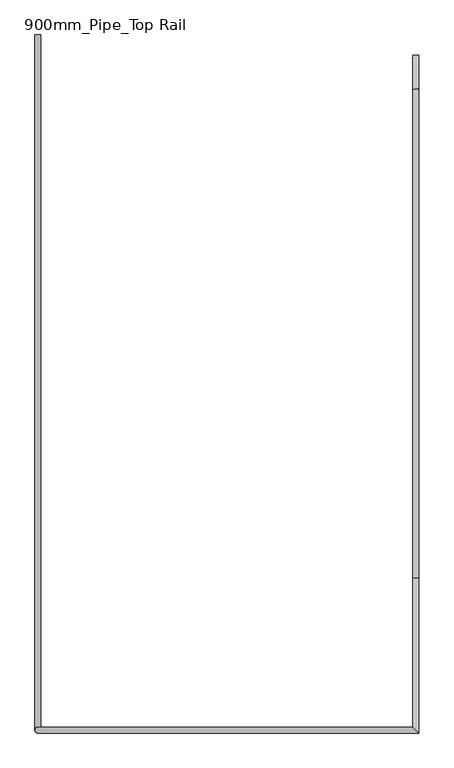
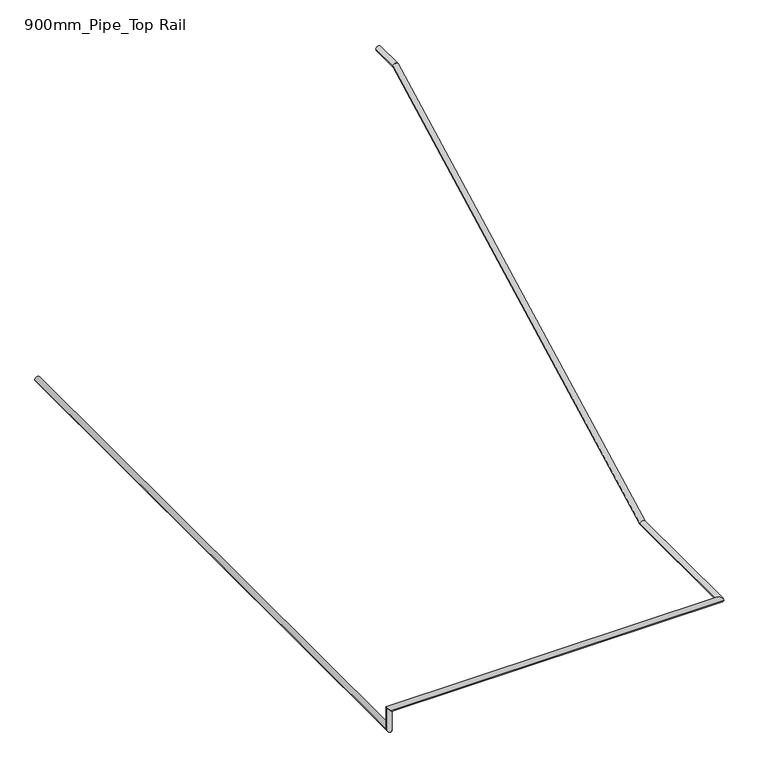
"""IFC4 building model written with IfcOpenShell, lengths in millimetres: railing geometry, 900mm_Pipe_Top Rail."""

from ifc_helpers import new_model, si_unit, frame, origin, place, context, project, spatial, circle_curve, ellipse_curve, source, transform, mapped, element, save
from ifc_brep_helpers import plane_surface, cylinder_surface, advanced_brep


def railing_900mm_pipe_top_rail_e3d62f47(model_context):
    return source(origin(), model_context, "Body", "AdvancedBrep", [
        advanced_brep(
        [(-13385.321645, 12332.0900975, 948.1818182), (-13345.321645, 12332.0900975, 948.1818182), (-13385.321645, 7639.8960687, 948.1818182), (-13345.321645, 7639.8960687, 948.1818182)],
        [
            (0, 1, circle_curve(frame((-13365.321645, 12332.0900975, 948.1818182), z_axis=(0.0, 1.0, 0.0), x_axis=(1.0, 0.0, 0.0)), 20.0)),
            (1, 0, circle_curve(frame((-13365.321645, 12332.0900975, 948.1818182), z_axis=(0.0, 1.0, 0.0), x_axis=(1.0, 0.0, 0.0)), 20.0)),
            (2, 3, ellipse_curve(frame((-13365.321645, 7639.8960687, 948.1818182), z_axis=(0.0, -0.70710678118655, 0.7071067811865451), x_axis=(0.0, 0.7071067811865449, 0.70710678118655)), 28.2842712, 20.0)),
            (3, 2, ellipse_curve(frame((-13365.321645, 7639.8960687, 948.1818182), z_axis=(0.0, -0.70710678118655, 0.7071067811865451), x_axis=(0.0, 0.7071067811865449, 0.70710678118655)), 28.2842712, 20.0)),
            (0, 2),
            (3, 1),
        ],
        [
            plane_surface(frame((-13365.321645, 12332.0900975, 968.1818182), z_axis=(0.0, 1.0, 0.0), x_axis=(0.0, 0.0, -1.0))),
            plane_surface(frame((-13365.321645, 7659.8960687, 968.1818182), z_axis=(0.0, -0.70710678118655, 0.7071067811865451), x_axis=(1.0, 0.0, 0.0))),
            cylinder_surface(frame((-13365.321645, 12332.0900975, 948.1818182), z_axis=(0.0, 1.0, 0.0), x_axis=(1.0, 0.0, 0.0)), 20.0),
        ],
        [
            (0, [[1, 2]]),
            (1, [[3, 4]]),
            (2, [[-1, 5, -4, 6]]),
            (2, [[-2, -6, -3, -5]]),
        ],
    ),
        advanced_brep(
        [(-13385.321645, 7639.8960687, 948.1818182), (-13345.321645, 7639.8960687, 948.1818182), (-13385.321645, 7639.8960687, 1125.0), (-13345.321645, 7639.8960687, 1085.0)],
        [
            (0, 1, ellipse_curve(frame((-13365.321645, 7639.8960687, 948.1818182), z_axis=(0.0, 0.70710678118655, -0.7071067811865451), x_axis=(0.0, -0.7071067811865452, -0.7071067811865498)), 28.2842712, 20.0)),
            (1, 0, ellipse_curve(frame((-13365.321645, 7639.8960687, 948.1818182), z_axis=(0.0, 0.70710678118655, -0.7071067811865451), x_axis=(0.0, -0.7071067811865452, -0.7071067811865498)), 28.2842712, 20.0)),
            (2, 3, ellipse_curve(frame((-13365.321645, 7639.8960687, 1105.0), z_axis=(0.7071067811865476, 0.0, 0.7071067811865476), x_axis=(0.7071067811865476, 0.0, -0.7071067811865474)), 28.2842712, 20.0)),
            (3, 2, ellipse_curve(frame((-13365.321645, 7639.8960687, 1105.0), z_axis=(0.7071067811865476, 0.0, 0.7071067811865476), x_axis=(0.7071067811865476, 0.0, -0.7071067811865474)), 28.2842712, 20.0)),
            (0, 2),
            (3, 1),
        ],
        [
            plane_surface(frame((-13365.321645, 7639.8960687, 948.1818182), z_axis=(0.0, 0.70710678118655, -0.7071067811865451), x_axis=(1.0, 0.0, 0.0))),
            plane_surface(frame((-13365.321645, 7639.8960687, 1105.0), z_axis=(0.7071067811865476, 0.0, 0.7071067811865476), x_axis=(0.7071067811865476, 0.0, -0.7071067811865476))),
            cylinder_surface(frame((-13365.321645, 7639.8960687, 948.1818182), z_axis=(0.0, 0.0, -1.0), x_axis=(1.0, 0.0, 0.0)), 20.0),
        ],
        [
            (0, [[1, 2]]),
            (1, [[3, 4]]),
            (2, [[-1, 5, -4, 6]]),
            (2, [[-2, -6, -3, -5]]),
        ],
    ),
        advanced_brep(
        [(-13365.321645, 7619.8960687, 1105.0), (-13365.321645, 7659.8960687, 1105.0), (-10795.2146087, 7619.8960687, 1105.0), (-10835.2146087, 7659.8960687, 1105.0), (-10795.2146087, 8669.7946817, 1105.0), (-10835.2146087, 8669.7946817, 1105.0), (-10795.2146087, 11969.7946817, 2830.0), (-10835.2146087, 11969.7946817, 2830.0), (-10795.2146087, 12194.8095561, 2830.0), (-10835.2146087, 12194.8095561, 2830.0)],
        [
            (0, 1, ellipse_curve(frame((-13365.321645, 7639.8960687, 1105.0), z_axis=(-0.7071067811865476, 0.0, -0.7071067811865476), x_axis=(-0.7071067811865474, 0.0, 0.7071067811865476)), 28.2842712, 20.0)),
            (1, 0, ellipse_curve(frame((-13365.321645, 7639.8960687, 1105.0), z_axis=(-0.7071067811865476, 0.0, -0.7071067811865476), x_axis=(-0.7071067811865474, 0.0, 0.7071067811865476)), 28.2842712, 20.0)),
            (0, 2),
            (2, 3, ellipse_curve(frame((-10815.2146087, 7639.8960687, 1105.0), z_axis=(-0.7071067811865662, -0.7071067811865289, 0.0), x_axis=(-0.7071067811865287, 0.7071067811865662, 0.0)), 28.2842712, 20.0)),
            (3, 1),
            (3, 2, ellipse_curve(frame((-10815.2146087, 7639.8960687, 1105.0), z_axis=(-0.7071067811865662, -0.7071067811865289, 0.0), x_axis=(-0.7071067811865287, 0.7071067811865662, 0.0)), 28.2842712, 20.0)),
            (2, 4),
            (4, 5, ellipse_curve(frame((-10815.2146087, 8669.7946817, 1105.0), z_axis=(0.0, -0.9711399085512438, -0.23851054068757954), x_axis=(0.0, -0.23851054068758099, 0.9711399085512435)), 20.594355, 20.0)),
            (5, 3),
            (5, 4, ellipse_curve(frame((-10815.2146087, 8669.7946817, 1105.0), z_axis=(0.0, -0.9711399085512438, -0.23851054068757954), x_axis=(0.0, -0.23851054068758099, 0.9711399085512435)), 20.594355, 20.0)),
            (4, 6),
            (6, 7, ellipse_curve(frame((-10815.2146087, 11969.7946817, 2830.0), z_axis=(0.0, -0.9711399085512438, -0.23851054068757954), x_axis=(0.0, 0.23851054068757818, -0.9711399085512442)), 20.594355, 20.0)),
            (7, 5),
            (7, 6, ellipse_curve(frame((-10815.2146087, 11969.7946817, 2830.0), z_axis=(0.0, -0.9711399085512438, -0.23851054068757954), x_axis=(0.0, 0.23851054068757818, -0.9711399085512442)), 20.594355, 20.0)),
            (8, 9, circle_curve(frame((-10815.2146087, 12194.8095561, 2830.0), z_axis=(0.0, 1.0, 0.0), x_axis=(-1.0, 0.0, 0.0)), 20.0)),
            (9, 8, circle_curve(frame((-10815.2146087, 12194.8095561, 2830.0), z_axis=(0.0, 1.0, 0.0), x_axis=(-1.0, 0.0, 0.0)), 20.0)),
            (6, 8),
            (9, 7),
        ],
        [
            plane_surface(frame((-13385.321645, 7639.8960687, 1125.0), z_axis=(-0.7071067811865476, 0.0, -0.7071067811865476), x_axis=(0.7071067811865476, 0.0, -0.7071067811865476))),
            cylinder_surface(frame((-13385.321645, 7639.8960687, 1105.0), z_axis=(-1.0, 0.0, 0.0), x_axis=(0.0, 1.0, 0.0)), 20.0),
            cylinder_surface(frame((-10815.2146087, 7639.8960687, 1105.0), z_axis=(0.0, -1.0, 0.0), x_axis=(-1.0, 0.0, 0.0)), 20.0),
            cylinder_surface(frame((-10815.2146087, 8674.1477952, 1107.2754911), z_axis=(0.0, -0.8862254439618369, -0.46325420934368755), x_axis=(-1.0, 0.0, 0.0)), 20.0),
            plane_surface(frame((-10815.2146087, 12194.8095561, 2850.0), z_axis=(0.0, 1.0, 0.0), x_axis=(0.0, 0.0, 1.0))),
            cylinder_surface(frame((-10815.2146087, 11964.882711, 2830.0), z_axis=(0.0, -1.0, 0.0), x_axis=(-1.0, 0.0, 0.0)), 20.0),
        ],
        [
            (0, [[1, 2]]),
            (1, [[-1, 3, 4, 5]]),
            (1, [[-2, -5, 6, -3]]),
            (2, [[-4, 7, 8, 9]]),
            (2, [[-6, -9, 10, -7]]),
            (3, [[-8, 11, 12, 13]]),
            (3, [[-10, -13, 14, -11]]),
            (4, [[15, 16]]),
            (5, [[-12, 17, -16, 18]]),
            (5, [[-14, -18, -15, -17]]),
        ],
    ),
    ])


if __name__ == "__main__":
    model = new_model("IFC4")
    model_context = context("Model", 3, world=origin())
    ifc_project = project(units=[si_unit("LENGTHUNIT", "METRE", prefix="MILLI")], contexts=[model_context])
    site = spatial("IfcSite", under=ifc_project)
    building = spatial("IfcBuilding", under=site)
    placement = place(None, origin())
    railing_900mm_pipe_top_rail_shape = railing_900mm_pipe_top_rail_e3d62f47(model_context)
    element("IfcRailing", 1, ObjectType="900mm_Pipe_Top Rail", at=placement, inside=building, context=model_context, shape_type="MappedRepresentation", body=[
        mapped(railing_900mm_pipe_top_rail_shape, transform((0.0, 0.0, 0.0), x_axis=(1.0, 0.0, 0.0), y_axis=(0.0, 1.0, 0.0), z_axis=(0.0, 0.0, 1.0))),
    ])
    save(model, "model.ifc")
